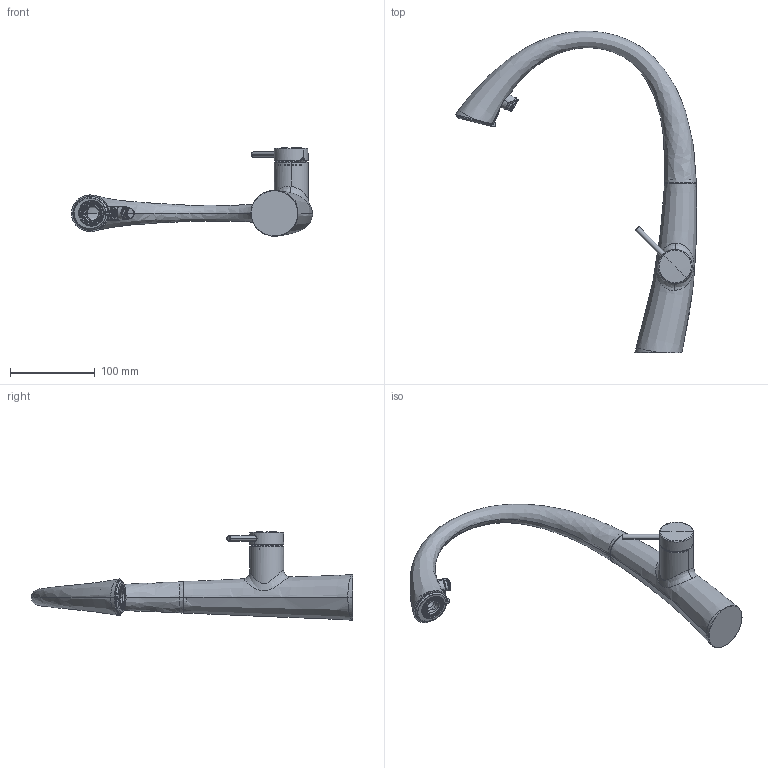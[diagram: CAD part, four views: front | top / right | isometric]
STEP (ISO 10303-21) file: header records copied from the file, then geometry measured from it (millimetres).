
FILE_DESCRIPTION((''),'2;1');
FILE_NAME('MASSBILD_K_E_SW0001','2025-07-28T13:26:18',('WB441'),(''),'CREO PARAMETRIC BY PTC INC, 2024133','CREO PARAMETRIC BY PTC INC, 2024133','');
FILE_SCHEMA(('CONFIG_CONTROL_DESIGN'));
Products named in the file (1): MASSBILD_K_E_SW0001
Bounding box: 284.84 x 379.59 x 104.48 mm (x, y, z)
Volume: 250849.4 mm3; surface area: 161370 mm2
Topology: 4 solids, 4 shells, 1310 faces, 3082 edges, 1797 vertices
Faces by surface type: bspline 407, cylinder 305, plane 208, torus 202, cone 92, sphere 70, extrusion 26
Entity records: 75829 total; most frequent: CARTESIAN_POINT 48586, ORIENTED_EDGE 6156, DIRECTION 5082, EDGE_CURVE 3078, AXIS2_PLACEMENT_3D 2167, VERTEX_POINT 1797, EDGE_LOOP 1397, FACE_OUTER_BOUND 1310
